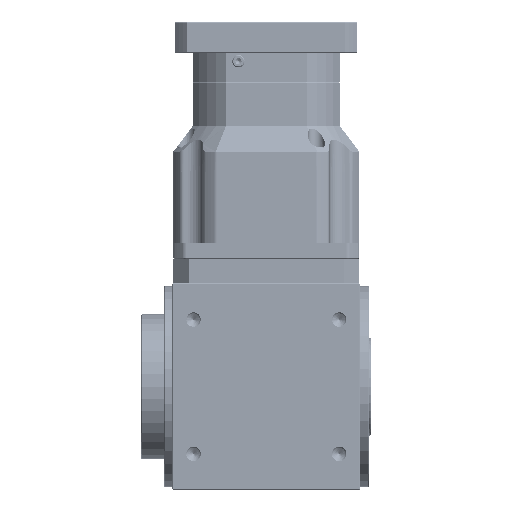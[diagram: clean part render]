
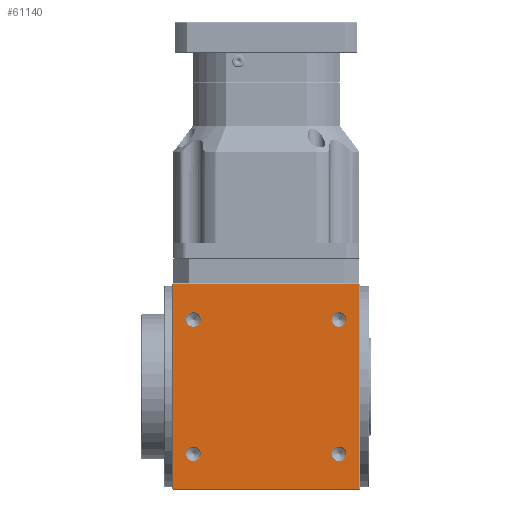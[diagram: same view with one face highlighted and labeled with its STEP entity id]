
A CAD part, front view. The second image highlights one B-rep face of the part: STEP entity #61140.
In plain terms, the highlighted planar face has unit normal (0, -1, 0) as drawn and (0, 0, -1) by its records, which use the part's own axes.
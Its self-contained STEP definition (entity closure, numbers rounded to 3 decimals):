
#449 = CARTESIAN_POINT ( 'NONE',  ( 91., 100., -100. ) ) ;
#1423 = ORIENTED_EDGE ( 'NONE', *, *, #9371, .T. ) ;
#1690 = VERTEX_POINT ( 'NONE', #88641 ) ;
#3082 = CARTESIAN_POINT ( 'NONE',  ( 70.5, -65., -100. ) ) ;
#4962 = DIRECTION ( 'NONE',  ( 0., 1., 0. ) ) ;
#6427 = LINE ( 'NONE', #112502, #124905 ) ;
#7134 = AXIS2_PLACEMENT_3D ( 'NONE', #3082, #83353, #14583 ) ;
#8254 = VERTEX_POINT ( 'NONE', #66685 ) ;
#8483 = VERTEX_POINT ( 'NONE', #15858 ) ;
#9371 = EDGE_CURVE ( 'NONE', #77364, #111657, #17312, .T. ) ;
#11174 = CARTESIAN_POINT ( 'NONE',  ( -90., 99., -100. ) ) ;
#12021 = DIRECTION ( 'NONE',  ( 0., -1., 0. ) ) ;
#13645 = CARTESIAN_POINT ( 'NONE',  ( -90., 100., -100. ) ) ;
#13704 = VECTOR ( 'NONE', #26186, 1000. ) ;
#14583 = DIRECTION ( 'NONE',  ( 0., 1., 0. ) ) ;
#15858 = CARTESIAN_POINT ( 'NONE',  ( -77.5, -65., -100. ) ) ;
#17312 = LINE ( 'NONE', #106518, #13704 ) ;
#17433 = CARTESIAN_POINT ( 'NONE',  ( -70.5, 58., -100. ) ) ;
#19022 = DIRECTION ( 'NONE',  ( 0., 0., -1. ) ) ;
#19279 = ORIENTED_EDGE ( 'NONE', *, *, #127354, .F. ) ;
#19398 = EDGE_CURVE ( 'NONE', #8254, #130140, #109854, .T. ) ;
#19407 = FACE_BOUND ( 'NONE', #74641, .T. ) ;
#21217 = AXIS2_PLACEMENT_3D ( 'NONE', #125973, #57211, #137484 ) ;
#21268 = CARTESIAN_POINT ( 'NONE',  ( 90., -99., -100. ) ) ;
#22990 = PLANE ( 'NONE',  #77920 ) ;
#23620 = EDGE_CURVE ( 'NONE', #145920, #111657, #52620, .T. ) ;
#24182 = CARTESIAN_POINT ( 'NONE',  ( -70.5, 65., -100. ) ) ;
#25145 = DIRECTION ( 'NONE',  ( 0., -1., 0. ) ) ;
#26186 = DIRECTION ( 'NONE',  ( 1., 0., 0. ) ) ;
#27077 = AXIS2_PLACEMENT_3D ( 'NONE', #30567, #110886, #42159 ) ;
#29797 = CIRCLE ( 'NONE', #7134, 7. ) ;
#30567 = CARTESIAN_POINT ( 'NONE',  ( -70.5, -65., -100. ) ) ;
#32172 = EDGE_CURVE ( 'NONE', #1690, #145920, #6427, .T. ) ;
#32425 = EDGE_CURVE ( 'NONE', #8483, #121389, #65586, .T. ) ;
#35271 = VECTOR ( 'NONE', #25145, 1000. ) ;
#35789 = DIRECTION ( 'NONE',  ( 0., 1., 0. ) ) ;
#37187 = DIRECTION ( 'NONE',  ( 0., 0., -1. ) ) ;
#38569 = ORIENTED_EDGE ( 'NONE', *, *, #23620, .F. ) ;
#42159 = DIRECTION ( 'NONE',  ( -1., 0., 0. ) ) ;
#43101 = CARTESIAN_POINT ( 'NONE',  ( 90., 100., -100. ) ) ;
#45748 = CIRCLE ( 'NONE', #128391, 7. ) ;
#45908 = VERTEX_POINT ( 'NONE', #95011 ) ;
#48174 = DIRECTION ( 'NONE',  ( 0., 0., -1. ) ) ;
#48322 = ORIENTED_EDGE ( 'NONE', *, *, #50813, .F. ) ;
#49904 = FACE_BOUND ( 'NONE', #103979, .T. ) ;
#50813 = EDGE_CURVE ( 'NONE', #77364, #1690, #62122, .T. ) ;
#50876 = CIRCLE ( 'NONE', #27077, 7. ) ;
#52620 = LINE ( 'NONE', #43101, #75950 ) ;
#53411 = ORIENTED_EDGE ( 'NONE', *, *, #128423, .F. ) ;
#57211 = DIRECTION ( 'NONE',  ( 0., 0., -1. ) ) ;
#58229 = EDGE_LOOP ( 'NONE', ( #100130, #117407 ) ) ;
#59829 = VERTEX_POINT ( 'NONE', #17433 ) ;
#61140 = ADVANCED_FACE ( 'NONE', ( #84057, #49904, #141435, #19407, #137853 ), #22990, .F. ) ;
#62122 = LINE ( 'NONE', #13645, #35271 ) ;
#64508 = EDGE_LOOP ( 'NONE', ( #81439, #19279 ) ) ;
#65586 = CIRCLE ( 'NONE', #96606, 7. ) ;
#65905 = CARTESIAN_POINT ( 'NONE',  ( 70.5, -72., -100. ) ) ;
#66685 = CARTESIAN_POINT ( 'NONE',  ( 70.5, 58., -100. ) ) ;
#73646 = DIRECTION ( 'NONE',  ( 0., 0., -1. ) ) ;
#74641 = EDGE_LOOP ( 'NONE', ( #53411, #135971 ) ) ;
#75950 = VECTOR ( 'NONE', #88727, 1000. ) ;
#77364 = VERTEX_POINT ( 'NONE', #11174 ) ;
#77920 = AXIS2_PLACEMENT_3D ( 'NONE', #449, #80750, #12021 ) ;
#77961 = AXIS2_PLACEMENT_3D ( 'NONE', #24182, #104474, #35789 ) ;
#80750 = DIRECTION ( 'NONE',  ( 0., 0., 1. ) ) ;
#81439 = ORIENTED_EDGE ( 'NONE', *, *, #32425, .F. ) ;
#83353 = DIRECTION ( 'NONE',  ( 0., 0., -1. ) ) ;
#84057 = FACE_BOUND ( 'NONE', #64508, .T. ) ;
#85341 = EDGE_CURVE ( 'NONE', #45908, #59829, #140138, .T. ) ;
#87714 = CARTESIAN_POINT ( 'NONE',  ( 70.5, -65., -100. ) ) ;
#88641 = CARTESIAN_POINT ( 'NONE',  ( -90., -99., -100. ) ) ;
#88727 = DIRECTION ( 'NONE',  ( 0., 1., 0. ) ) ;
#91629 = ORIENTED_EDGE ( 'NONE', *, *, #115328, .F. ) ;
#95011 = CARTESIAN_POINT ( 'NONE',  ( -70.5, 72., -100. ) ) ;
#96606 = AXIS2_PLACEMENT_3D ( 'NONE', #105869, #37187, #117395 ) ;
#96694 = CARTESIAN_POINT ( 'NONE',  ( 70.5, 72., -100. ) ) ;
#99036 = CIRCLE ( 'NONE', #127053, 7. ) ;
#99291 = DIRECTION ( 'NONE',  ( 0., 1., 0. ) ) ;
#100130 = ORIENTED_EDGE ( 'NONE', *, *, #104048, .F. ) ;
#100764 = CARTESIAN_POINT ( 'NONE',  ( 90., 99., -100. ) ) ;
#103979 = EDGE_LOOP ( 'NONE', ( #137615, #91629 ) ) ;
#104048 = EDGE_CURVE ( 'NONE', #130140, #8254, #99036, .T. ) ;
#104474 = DIRECTION ( 'NONE',  ( 0., 0., -1. ) ) ;
#105869 = CARTESIAN_POINT ( 'NONE',  ( -70.5, -65., -100. ) ) ;
#106355 = CARTESIAN_POINT ( 'NONE',  ( 70.5, -58., -100. ) ) ;
#106518 = CARTESIAN_POINT ( 'NONE',  ( 91., 99., -100. ) ) ;
#109460 = EDGE_LOOP ( 'NONE', ( #48322, #1423, #38569, #142220 ) ) ;
#109854 = CIRCLE ( 'NONE', #21217, 7. ) ;
#110886 = DIRECTION ( 'NONE',  ( 0., 0., -1. ) ) ;
#111523 = EDGE_CURVE ( 'NONE', #126875, #145193, #45748, .T. ) ;
#111657 = VERTEX_POINT ( 'NONE', #100764 ) ;
#112502 = CARTESIAN_POINT ( 'NONE',  ( 91., -99., -100. ) ) ;
#115328 = EDGE_CURVE ( 'NONE', #59829, #45908, #126911, .T. ) ;
#116859 = CARTESIAN_POINT ( 'NONE',  ( -70.5, 65., -100. ) ) ;
#117395 = DIRECTION ( 'NONE',  ( -1., 0., 0. ) ) ;
#117407 = ORIENTED_EDGE ( 'NONE', *, *, #19398, .F. ) ;
#121389 = VERTEX_POINT ( 'NONE', #129717 ) ;
#124905 = VECTOR ( 'NONE', #125004, 1000. ) ;
#125004 = DIRECTION ( 'NONE',  ( 1., 0., 0. ) ) ;
#125973 = CARTESIAN_POINT ( 'NONE',  ( 70.5, 65., -100. ) ) ;
#126875 = VERTEX_POINT ( 'NONE', #65905 ) ;
#126911 = CIRCLE ( 'NONE', #147173, 7. ) ;
#127053 = AXIS2_PLACEMENT_3D ( 'NONE', #142340, #73646, #4962 ) ;
#127354 = EDGE_CURVE ( 'NONE', #121389, #8483, #50876, .T. ) ;
#128391 = AXIS2_PLACEMENT_3D ( 'NONE', #87714, #19022, #99291 ) ;
#128421 = DIRECTION ( 'NONE',  ( 0., 1., 0. ) ) ;
#128423 = EDGE_CURVE ( 'NONE', #145193, #126875, #29797, .T. ) ;
#129717 = CARTESIAN_POINT ( 'NONE',  ( -63.5, -65., -100. ) ) ;
#130140 = VERTEX_POINT ( 'NONE', #96694 ) ;
#135971 = ORIENTED_EDGE ( 'NONE', *, *, #111523, .F. ) ;
#137484 = DIRECTION ( 'NONE',  ( 0., 1., 0. ) ) ;
#137615 = ORIENTED_EDGE ( 'NONE', *, *, #85341, .F. ) ;
#137853 = FACE_OUTER_BOUND ( 'NONE', #109460, .T. ) ;
#140138 = CIRCLE ( 'NONE', #77961, 7. ) ;
#141435 = FACE_BOUND ( 'NONE', #58229, .T. ) ;
#142220 = ORIENTED_EDGE ( 'NONE', *, *, #32172, .F. ) ;
#142340 = CARTESIAN_POINT ( 'NONE',  ( 70.5, 65., -100. ) ) ;
#145193 = VERTEX_POINT ( 'NONE', #106355 ) ;
#145920 = VERTEX_POINT ( 'NONE', #21268 ) ;
#147173 = AXIS2_PLACEMENT_3D ( 'NONE', #116859, #48174, #128421 ) ;
